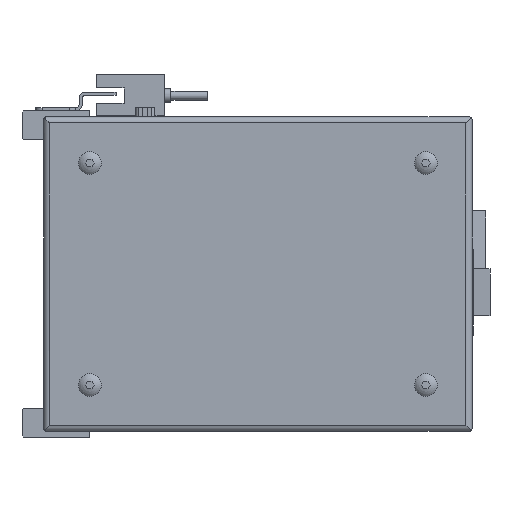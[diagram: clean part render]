
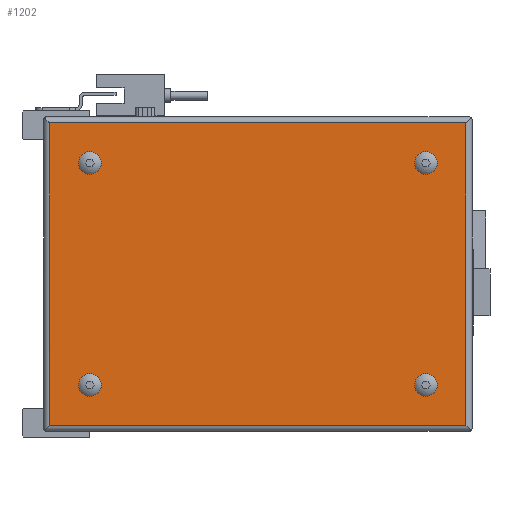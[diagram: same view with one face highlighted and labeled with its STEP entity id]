
A CAD part, left-side view. The second image highlights one B-rep face of the part: STEP entity #1202.
In plain terms, the highlighted planar face has unit normal (-1, 0, 0).
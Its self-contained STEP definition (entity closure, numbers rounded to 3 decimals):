
#1202 = ADVANCED_FACE( '', ( #2860, #2861, #2862, #2863, #2864 ), #2865, .F. );
#2860 = FACE_BOUND( '', #5121, .T. );
#2861 = FACE_BOUND( '', #5122, .T. );
#2862 = FACE_BOUND( '', #5123, .T. );
#2863 = FACE_BOUND( '', #5124, .T. );
#2864 = FACE_OUTER_BOUND( '', #5125, .T. );
#2865 = PLANE( '', #5126 );
#5121 = EDGE_LOOP( '', ( #8382 ) );
#5122 = EDGE_LOOP( '', ( #8383 ) );
#5123 = EDGE_LOOP( '', ( #8384 ) );
#5124 = EDGE_LOOP( '', ( #8385 ) );
#5125 = EDGE_LOOP( '', ( #8386, #8387, #8388, #8389 ) );
#5126 = AXIS2_PLACEMENT_3D( '', #8390, #8391, #8392 );
#8382 = ORIENTED_EDGE( '', *, *, #14044, .F. );
#8383 = ORIENTED_EDGE( '', *, *, #14045, .F. );
#8384 = ORIENTED_EDGE( '', *, *, #14046, .F. );
#8385 = ORIENTED_EDGE( '', *, *, #14047, .F. );
#8386 = ORIENTED_EDGE( '', *, *, #14048, .T. );
#8387 = ORIENTED_EDGE( '', *, *, #14049, .F. );
#8388 = ORIENTED_EDGE( '', *, *, #13647, .F. );
#8389 = ORIENTED_EDGE( '', *, *, #14050, .T. );
#8390 = CARTESIAN_POINT( '', ( -52., -75., 50. ) );
#8391 = DIRECTION( '', ( 1., 0., 0. ) );
#8392 = DIRECTION( '', ( 0., 0., -1. ) );
#13647 = EDGE_CURVE( '', #16508, #16509, #16510, .F. );
#14044 = EDGE_CURVE( '', #17169, #17169, #17170, .F. );
#14045 = EDGE_CURVE( '', #17171, #17171, #17172, .F. );
#14046 = EDGE_CURVE( '', #17173, #17173, #17174, .F. );
#14047 = EDGE_CURVE( '', #17175, #17175, #17176, .F. );
#14048 = EDGE_CURVE( '', #17177, #17178, #17179, .F. );
#14049 = EDGE_CURVE( '', #16509, #17178, #17180, .T. );
#14050 = EDGE_CURVE( '', #16508, #17177, #17181, .T. );
#16508 = VERTEX_POINT( '', #20817 );
#16509 = VERTEX_POINT( '', #20818 );
#16510 = LINE( '', #20819, #20820 );
#17169 = VERTEX_POINT( '', #21754 );
#17170 = CIRCLE( '', #21755, 3.7 );
#17171 = VERTEX_POINT( '', #21756 );
#17172 = CIRCLE( '', #21757, 3.7 );
#17173 = VERTEX_POINT( '', #21758 );
#17174 = CIRCLE( '', #21759, 3.7 );
#17175 = VERTEX_POINT( '', #21760 );
#17176 = CIRCLE( '', #21761, 3.7 );
#17177 = VERTEX_POINT( '', #21762 );
#17178 = VERTEX_POINT( '', #21763 );
#17179 = LINE( '', #21764, #21765 );
#17180 = LINE( '', #21766, #21767 );
#17181 = LINE( '', #21768, #21769 );
#20817 = CARTESIAN_POINT( '', ( -52., -74., -49. ) );
#20818 = CARTESIAN_POINT( '', ( -52., 61., -49. ) );
#20819 = CARTESIAN_POINT( '', ( -52., 139., -49. ) );
#20820 = VECTOR( '', #25341, 1000. );
#21754 = CARTESIAN_POINT( '', ( -52., -61., 32.3 ) );
#21755 = AXIS2_PLACEMENT_3D( '', #25838, #25839, #25840 );
#21756 = CARTESIAN_POINT( '', ( -52., -61., -39.7 ) );
#21757 = AXIS2_PLACEMENT_3D( '', #25841, #25842, #25843 );
#21758 = CARTESIAN_POINT( '', ( -52., 48., 32.3 ) );
#21759 = AXIS2_PLACEMENT_3D( '', #25844, #25845, #25846 );
#21760 = CARTESIAN_POINT( '', ( -52., 48., -39.7 ) );
#21761 = AXIS2_PLACEMENT_3D( '', #25847, #25848, #25849 );
#21762 = CARTESIAN_POINT( '', ( -52., -74., 49. ) );
#21763 = CARTESIAN_POINT( '', ( -52., 61., 49. ) );
#21764 = CARTESIAN_POINT( '', ( -52., 139., 49. ) );
#21765 = VECTOR( '', #25850, 1000. );
#21766 = CARTESIAN_POINT( '', ( -52., 61., -102. ) );
#21767 = VECTOR( '', #25851, 1000. );
#21768 = CARTESIAN_POINT( '', ( -52., -74., -102. ) );
#21769 = VECTOR( '', #25852, 1000. );
#25341 = DIRECTION( '', ( 0., -1., 0. ) );
#25838 = CARTESIAN_POINT( '', ( -52., -61., 36. ) );
#25839 = DIRECTION( '', ( 1., 0., 0. ) );
#25840 = DIRECTION( '', ( 0., 0., -1. ) );
#25841 = CARTESIAN_POINT( '', ( -52., -61., -36. ) );
#25842 = DIRECTION( '', ( 1., 0., 0. ) );
#25843 = DIRECTION( '', ( 0., 0., -1. ) );
#25844 = CARTESIAN_POINT( '', ( -52., 48., 36. ) );
#25845 = DIRECTION( '', ( 1., 0., 0. ) );
#25846 = DIRECTION( '', ( 0., 0., -1. ) );
#25847 = CARTESIAN_POINT( '', ( -52., 48., -36. ) );
#25848 = DIRECTION( '', ( 1., 0., 0. ) );
#25849 = DIRECTION( '', ( 0., 0., -1. ) );
#25850 = DIRECTION( '', ( 0., -1., 0. ) );
#25851 = DIRECTION( '', ( 0., 0., 1. ) );
#25852 = DIRECTION( '', ( 0., 0., 1. ) );
